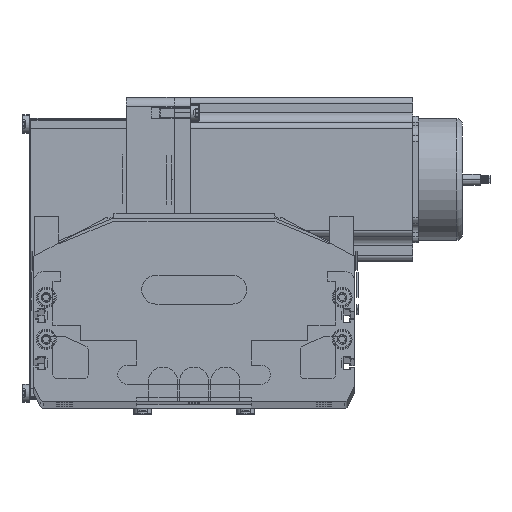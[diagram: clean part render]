
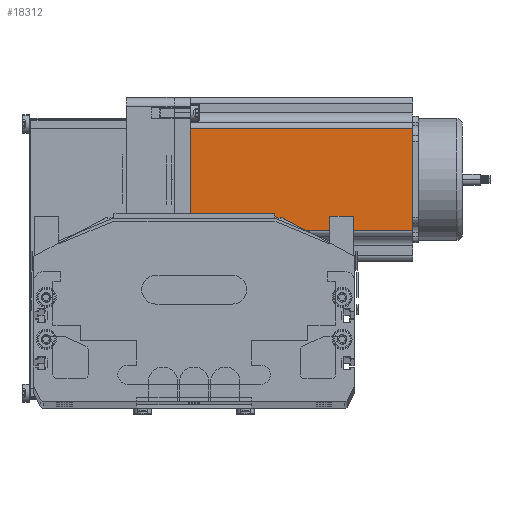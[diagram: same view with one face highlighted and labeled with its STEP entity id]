
A CAD part, top view. The second image highlights one B-rep face of the part: STEP entity #18312.
In plain terms, the highlighted planar face has unit normal (0, 0, 1) as drawn and (0, -1, 0) by its records, which use the part's own axes.
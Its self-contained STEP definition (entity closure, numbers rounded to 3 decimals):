
#18065 = EDGE_LOOP ( 'NONE', ( #18313, #18315, #18666, #18635 ) ) ;
#18307 = EDGE_CURVE ( 'NONE', #18310, #18311, #76528, .T. ) ;
#18310 = VERTEX_POINT ( 'NONE', #76516 ) ;
#18311 = VERTEX_POINT ( 'NONE', #76515 ) ;
#18312 = ADVANCED_FACE ( 'NONE', ( #76514 ), #76523, .F. ) ;
#18313 = ORIENTED_EDGE ( 'NONE', *, *, #18307, .T. ) ;
#18315 = ORIENTED_EDGE ( 'NONE', *, *, #18459, .T. ) ;
#18454 = VERTEX_POINT ( 'NONE', #80502 ) ;
#18459 = EDGE_CURVE ( 'NONE', #18311, #18454, #80207, .T. ) ;
#18635 = ORIENTED_EDGE ( 'NONE', *, *, #18649, .T. ) ;
#18649 = EDGE_CURVE ( 'NONE', #18767, #18310, #44699, .T. ) ;
#18650 = EDGE_CURVE ( 'NONE', #18767, #18454, #44417, .T. ) ;
#18666 = ORIENTED_EDGE ( 'NONE', *, *, #18650, .F. ) ;
#18767 = VERTEX_POINT ( 'NONE', #46836 ) ;
#44413 = VECTOR ( 'NONE', #44580, 1000. ) ;
#44415 = CARTESIAN_POINT ( 'NONE',  ( 0., 0., 116.5 ) ) ;
#44417 = LINE ( 'NONE', #44415, #44413 ) ;
#44580 = DIRECTION ( 'NONE',  ( 1., 0., 0. ) ) ;
#44678 = DIRECTION ( 'NONE',  ( 0., 0., -1. ) ) ;
#44679 = VECTOR ( 'NONE', #44678, 1000. ) ;
#44685 = CARTESIAN_POINT ( 'NONE',  ( 16.16, 0., 116.5 ) ) ;
#44699 = LINE ( 'NONE', #44685, #44679 ) ;
#46836 = CARTESIAN_POINT ( 'NONE',  ( 16.16, 0., 116.5 ) ) ;
#76501 = DIRECTION ( 'NONE',  ( 0., 0., 1. ) ) ;
#76502 = DIRECTION ( 'NONE',  ( 0., 1., 0. ) ) ;
#76513 = CARTESIAN_POINT ( 'NONE',  ( 0., 0., 116.5 ) ) ;
#76514 = FACE_OUTER_BOUND ( 'NONE', #18065, .T. ) ;
#76515 = CARTESIAN_POINT ( 'NONE',  ( 69.74, 0., 0. ) ) ;
#76516 = CARTESIAN_POINT ( 'NONE',  ( 16.16, 0., 0. ) ) ;
#76517 = DIRECTION ( 'NONE',  ( 1., 0., 0. ) ) ;
#76518 = VECTOR ( 'NONE', #76517, 1000. ) ;
#76519 = AXIS2_PLACEMENT_3D ( 'NONE', #76513, #76502, #76501 ) ;
#76523 = PLANE ( 'NONE',  #76519 ) ;
#76527 = CARTESIAN_POINT ( 'NONE',  ( 0., 0., 0. ) ) ;
#76528 = LINE ( 'NONE', #76527, #76518 ) ;
#80207 = LINE ( 'NONE', #80243, #80213 ) ;
#80213 = VECTOR ( 'NONE', #80242, 1000. ) ;
#80242 = DIRECTION ( 'NONE',  ( 0., 0., 1. ) ) ;
#80243 = CARTESIAN_POINT ( 'NONE',  ( 69.74, 0., 116.5 ) ) ;
#80502 = CARTESIAN_POINT ( 'NONE',  ( 69.74, 0., 116.5 ) ) ;
